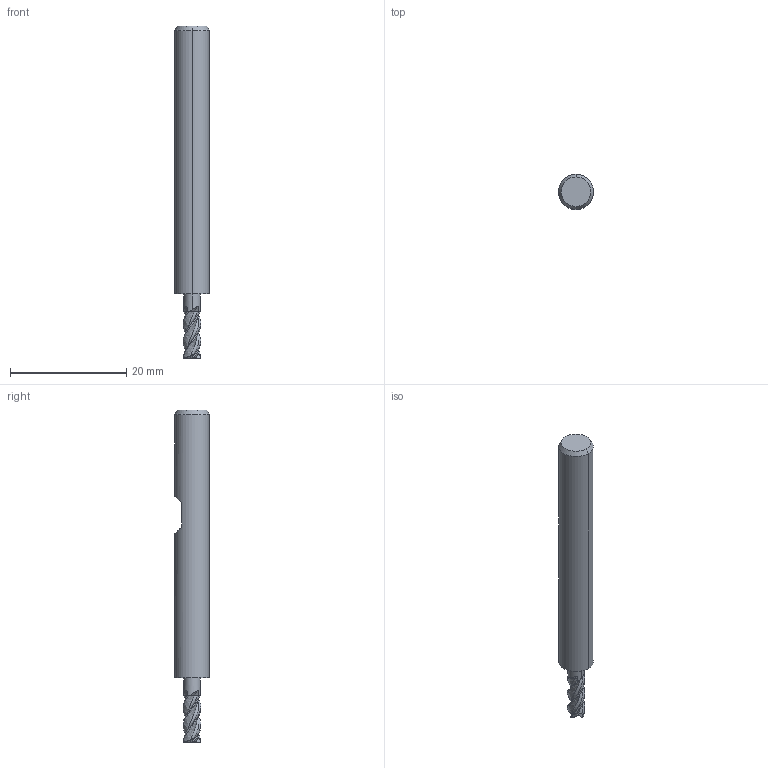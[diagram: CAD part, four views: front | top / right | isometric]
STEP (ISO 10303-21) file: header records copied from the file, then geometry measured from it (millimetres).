
FILE_DESCRIPTION(('no description'),'unknown implementation level');
FILE_NAME('solidMLkf9N_N2Zp83bA8cpVYMMrBX8s_1.STP',' ',('CIMSOURCE GmbH'),('CADClick - KiM GmbH - www.kimweb.de'),'unknown preprocess','ACIS','unknown authorization');
FILE_SCHEMA(('automotive_design'));
Length unit declared in the file: millimetre
Products named in the file (2): 1; 2
Bounding box: 6 x 6 x 57 mm (x, y, z)
Volume: 1324 mm3; surface area: 1036 mm2
Topology: 2 solids, 2 shells, 97 faces, 268 edges, 175 vertices
Faces by surface type: plane 34, bspline 24, revolution 12, cylinder 11, cone 10, torus 6
Entity records: 12364 total; most frequent: CARTESIAN_POINT 7139, STYLED_ITEM 542, PRESENTATION_STYLE_ASSIGNMENT 542, COLOUR_RGB 542, ORIENTED_EDGE 536, DIRECTION 331, EDGE_CURVE 268, CURVE_STYLE 268
